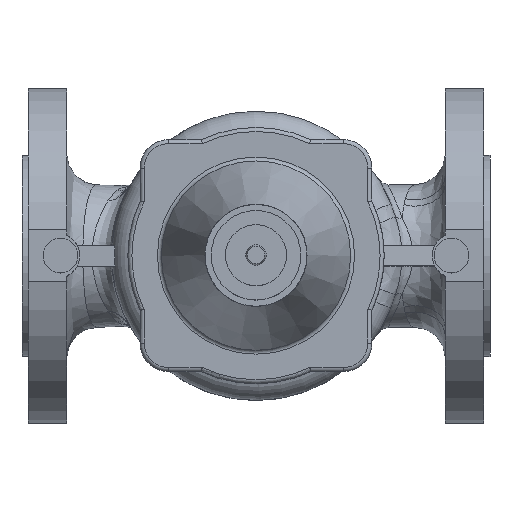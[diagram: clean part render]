
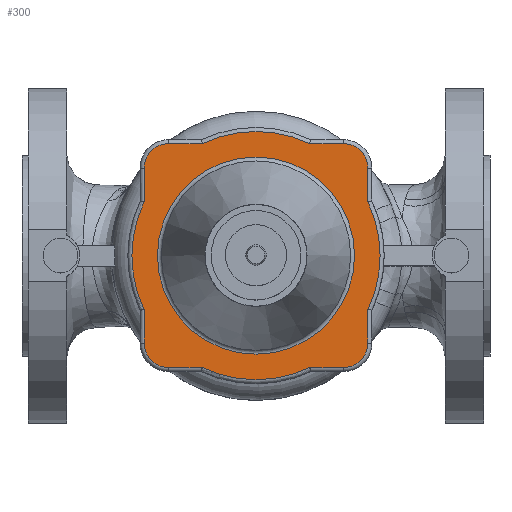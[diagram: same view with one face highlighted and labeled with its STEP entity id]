
A CAD part, top view. The second image highlights one B-rep face of the part: STEP entity #300.
In plain terms, the highlighted planar face has unit normal (0, 0, 1).
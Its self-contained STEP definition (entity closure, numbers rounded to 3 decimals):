
#75=PLANE('',#3137);
#198=FACE_BOUND('',#725,.T.);
#199=FACE_BOUND('',#726,.T.);
#300=ADVANCED_FACE('',(#198,#199),#75,.F.);
#725=EDGE_LOOP('',(#1460));
#726=EDGE_LOOP('',(#1461,#1462,#1463,#1464,#1465,#1466,#1467,#1468,#1469,
#1470,#1471,#1472,#1473,#1474,#1475,#1476));
#951=LINE('',#4900,#1064);
#952=LINE('',#4904,#1065);
#953=LINE('',#4908,#1066);
#954=LINE('',#4912,#1067);
#955=LINE('',#4916,#1068);
#956=LINE('',#4920,#1069);
#957=LINE('',#4924,#1070);
#958=LINE('',#4928,#1071);
#1064=VECTOR('',#3558,1.);
#1065=VECTOR('',#3561,1.);
#1066=VECTOR('',#3564,1.);
#1067=VECTOR('',#3567,1.);
#1068=VECTOR('',#3570,1.);
#1069=VECTOR('',#3573,1.);
#1070=VECTOR('',#3576,1.);
#1071=VECTOR('',#3579,1.);
#1195=CIRCLE('',#3128,48.435);
#1196=CIRCLE('',#3129,12.);
#1197=CIRCLE('',#3130,61.);
#1198=CIRCLE('',#3131,12.);
#1199=CIRCLE('',#3132,61.);
#1200=CIRCLE('',#3133,12.);
#1201=CIRCLE('',#3134,61.);
#1202=CIRCLE('',#3135,12.);
#1203=CIRCLE('',#3136,61.);
#1460=ORIENTED_EDGE('',*,*,#2590,.T.);
#1461=ORIENTED_EDGE('',*,*,#2591,.T.);
#1462=ORIENTED_EDGE('',*,*,#2592,.T.);
#1463=ORIENTED_EDGE('',*,*,#2593,.T.);
#1464=ORIENTED_EDGE('',*,*,#2594,.T.);
#1465=ORIENTED_EDGE('',*,*,#2595,.T.);
#1466=ORIENTED_EDGE('',*,*,#2596,.T.);
#1467=ORIENTED_EDGE('',*,*,#2597,.T.);
#1468=ORIENTED_EDGE('',*,*,#2598,.T.);
#1469=ORIENTED_EDGE('',*,*,#2599,.T.);
#1470=ORIENTED_EDGE('',*,*,#2600,.T.);
#1471=ORIENTED_EDGE('',*,*,#2601,.T.);
#1472=ORIENTED_EDGE('',*,*,#2602,.T.);
#1473=ORIENTED_EDGE('',*,*,#2603,.T.);
#1474=ORIENTED_EDGE('',*,*,#2604,.T.);
#1475=ORIENTED_EDGE('',*,*,#2605,.T.);
#1476=ORIENTED_EDGE('',*,*,#2606,.T.);
#2308=VERTEX_POINT('',#4896);
#2309=VERTEX_POINT('',#4898);
#2310=VERTEX_POINT('',#4899);
#2311=VERTEX_POINT('',#4901);
#2312=VERTEX_POINT('',#4903);
#2313=VERTEX_POINT('',#4905);
#2314=VERTEX_POINT('',#4907);
#2315=VERTEX_POINT('',#4909);
#2316=VERTEX_POINT('',#4911);
#2317=VERTEX_POINT('',#4913);
#2318=VERTEX_POINT('',#4915);
#2319=VERTEX_POINT('',#4917);
#2320=VERTEX_POINT('',#4919);
#2321=VERTEX_POINT('',#4921);
#2322=VERTEX_POINT('',#4923);
#2323=VERTEX_POINT('',#4925);
#2324=VERTEX_POINT('',#4927);
#2590=EDGE_CURVE('',#2308,#2308,#1195,.T.);
#2591=EDGE_CURVE('',#2309,#2310,#1196,.T.);
#2592=EDGE_CURVE('',#2310,#2311,#951,.T.);
#2593=EDGE_CURVE('',#2311,#2312,#1197,.T.);
#2594=EDGE_CURVE('',#2312,#2313,#952,.T.);
#2595=EDGE_CURVE('',#2313,#2314,#1198,.T.);
#2596=EDGE_CURVE('',#2314,#2315,#953,.T.);
#2597=EDGE_CURVE('',#2315,#2316,#1199,.T.);
#2598=EDGE_CURVE('',#2316,#2317,#954,.T.);
#2599=EDGE_CURVE('',#2317,#2318,#1200,.T.);
#2600=EDGE_CURVE('',#2318,#2319,#955,.T.);
#2601=EDGE_CURVE('',#2319,#2320,#1201,.T.);
#2602=EDGE_CURVE('',#2320,#2321,#956,.T.);
#2603=EDGE_CURVE('',#2321,#2322,#1202,.T.);
#2604=EDGE_CURVE('',#2322,#2323,#957,.T.);
#2605=EDGE_CURVE('',#2323,#2324,#1203,.T.);
#2606=EDGE_CURVE('',#2324,#2309,#958,.T.);
#3128=AXIS2_PLACEMENT_3D('',#4895,#3554,#3555);
#3129=AXIS2_PLACEMENT_3D('',#4897,#3556,#3557);
#3130=AXIS2_PLACEMENT_3D('',#4902,#3559,#3560);
#3131=AXIS2_PLACEMENT_3D('',#4906,#3562,#3563);
#3132=AXIS2_PLACEMENT_3D('',#4910,#3565,#3566);
#3133=AXIS2_PLACEMENT_3D('',#4914,#3568,#3569);
#3134=AXIS2_PLACEMENT_3D('',#4918,#3571,#3572);
#3135=AXIS2_PLACEMENT_3D('',#4922,#3574,#3575);
#3136=AXIS2_PLACEMENT_3D('',#4926,#3577,#3578);
#3137=AXIS2_PLACEMENT_3D('',#4929,#3580,#3581);
#3554=DIRECTION('',(0.,0.,-1.));
#3555=DIRECTION('',(-1.,0.,0.));
#3556=DIRECTION('',(0.,0.,1.));
#3557=DIRECTION('',(-1.,0.,0.));
#3558=DIRECTION('',(0.,-1.,0.));
#3559=DIRECTION('',(0.,0.,1.));
#3560=DIRECTION('',(-1.,0.,0.));
#3561=DIRECTION('',(0.,-1.,0.));
#3562=DIRECTION('',(0.,0.,1.));
#3563=DIRECTION('',(-1.,0.,0.));
#3564=DIRECTION('',(1.,0.,0.));
#3565=DIRECTION('',(0.,0.,1.));
#3566=DIRECTION('',(-1.,0.,0.));
#3567=DIRECTION('',(1.,0.,0.));
#3568=DIRECTION('',(0.,0.,1.));
#3569=DIRECTION('',(-1.,0.,0.));
#3570=DIRECTION('',(0.,1.,0.));
#3571=DIRECTION('',(0.,0.,1.));
#3572=DIRECTION('',(-1.,0.,0.));
#3573=DIRECTION('',(0.,1.,0.));
#3574=DIRECTION('',(0.,0.,1.));
#3575=DIRECTION('',(-1.,0.,0.));
#3576=DIRECTION('',(-1.,0.,0.));
#3577=DIRECTION('',(0.,0.,1.));
#3578=DIRECTION('',(-1.,0.,0.));
#3579=DIRECTION('',(-1.,0.,0.));
#3580=DIRECTION('',(0.,0.,-1.));
#3581=DIRECTION('',(-1.,0.,0.));
#4895=CARTESIAN_POINT('',(0.,0.,110.5));
#4896=CARTESIAN_POINT('',(-48.435,0.,110.5));
#4897=CARTESIAN_POINT('',(-43.,43.,110.5));
#4898=CARTESIAN_POINT('',(-43.,55.,110.5));
#4899=CARTESIAN_POINT('',(-55.,43.,110.5));
#4900=CARTESIAN_POINT('',(-55.,0.,110.5));
#4901=CARTESIAN_POINT('',(-55.,26.382,110.5));
#4902=CARTESIAN_POINT('',(0.,0.,110.5));
#4903=CARTESIAN_POINT('',(-55.,-26.382,110.5));
#4904=CARTESIAN_POINT('',(-55.,0.,110.5));
#4905=CARTESIAN_POINT('',(-55.,-43.,110.5));
#4906=CARTESIAN_POINT('',(-43.,-43.,110.5));
#4907=CARTESIAN_POINT('',(-43.,-55.,110.5));
#4908=CARTESIAN_POINT('',(63.,-55.,110.5));
#4909=CARTESIAN_POINT('',(-26.382,-55.,110.5));
#4910=CARTESIAN_POINT('',(0.,0.,110.5));
#4911=CARTESIAN_POINT('',(26.382,-55.,110.5));
#4912=CARTESIAN_POINT('',(63.,-55.,110.5));
#4913=CARTESIAN_POINT('',(43.,-55.,110.5));
#4914=CARTESIAN_POINT('',(43.,-43.,110.5));
#4915=CARTESIAN_POINT('',(55.,-43.,110.5));
#4916=CARTESIAN_POINT('',(55.,0.,110.5));
#4917=CARTESIAN_POINT('',(55.,-26.382,110.5));
#4918=CARTESIAN_POINT('',(0.,0.,110.5));
#4919=CARTESIAN_POINT('',(55.,26.382,110.5));
#4920=CARTESIAN_POINT('',(55.,0.,110.5));
#4921=CARTESIAN_POINT('',(55.,43.,110.5));
#4922=CARTESIAN_POINT('',(43.,43.,110.5));
#4923=CARTESIAN_POINT('',(43.,55.,110.5));
#4924=CARTESIAN_POINT('',(63.,55.,110.5));
#4925=CARTESIAN_POINT('',(26.382,55.,110.5));
#4926=CARTESIAN_POINT('',(0.,0.,110.5));
#4927=CARTESIAN_POINT('',(-26.382,55.,110.5));
#4928=CARTESIAN_POINT('',(63.,55.,110.5));
#4929=CARTESIAN_POINT('',(63.,0.,110.5));
